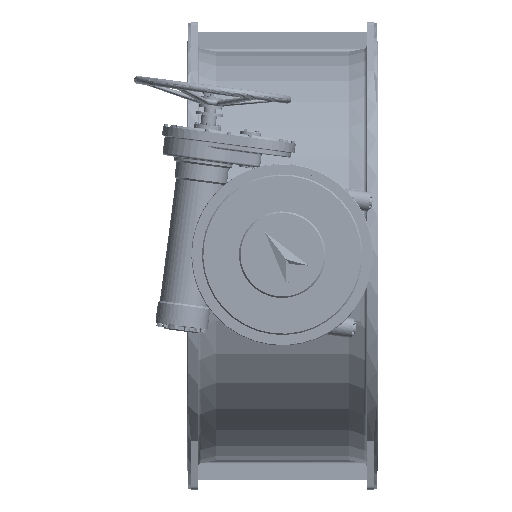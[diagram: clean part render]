
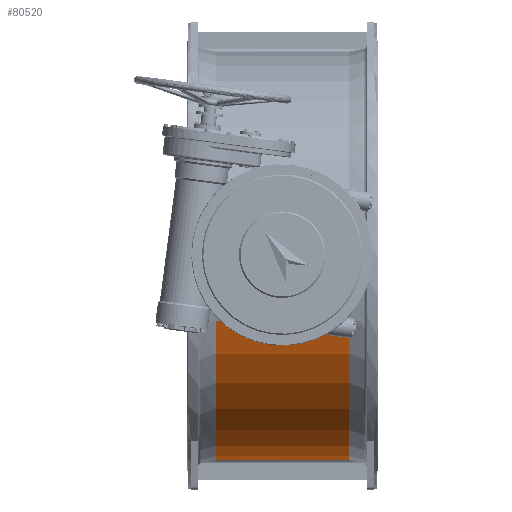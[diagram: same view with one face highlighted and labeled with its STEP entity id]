
A CAD part, top view. The second image highlights one B-rep face of the part: STEP entity #80520.
In plain terms, the highlighted cylindrical face has radius 929 mm (diameter 1858 mm), a partial arc.
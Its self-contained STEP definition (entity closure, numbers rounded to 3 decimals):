
#311 = VERTEX_POINT ( 'NONE', #8904 ) ;
#314 = VERTEX_POINT ( 'NONE', #8902 ) ;
#362 = VERTEX_POINT ( 'NONE', #8846 ) ;
#368 = VERTEX_POINT ( 'NONE', #8840 ) ;
#8840 = CARTESIAN_POINT ( 'NONE',  ( -303., 27.063, -928.606 ) ) ;
#8846 = CARTESIAN_POINT ( 'NONE',  ( -303., 880.245, -297. ) ) ;
#8902 = CARTESIAN_POINT ( 'NONE',  ( 303., 880.245, -297. ) ) ;
#8904 = CARTESIAN_POINT ( 'NONE',  ( 303., 27.063, -928.606 ) ) ;
#27659 = LINE ( 'NONE', #108118, #27667 ) ;
#27663 = LINE ( 'NONE', #108116, #27665 ) ;
#27665 = VECTOR ( 'NONE', #108111, 1000. ) ;
#27667 = VECTOR ( 'NONE', #108123, 1000. ) ;
#28082 = FACE_OUTER_BOUND ( 'NONE', #72470, .T. ) ;
#28091 = CYLINDRICAL_SURFACE ( 'NONE', #66469, 929. ) ;
#35241 = DIRECTION ( 'NONE',  ( 0., 0., 1. ) ) ;
#35244 = DIRECTION ( 'NONE',  ( -1., 0., 0. ) ) ;
#35247 = CARTESIAN_POINT ( 'NONE',  ( -183.869, 0., 0. ) ) ;
#62771 = EDGE_CURVE ( 'NONE', #314, #362, #27663, .T. ) ;
#62772 = EDGE_CURVE ( 'NONE', #311, #368, #27659, .T. ) ;
#66469 = AXIS2_PLACEMENT_3D ( 'NONE', #35247, #35244, #35241 ) ;
#72470 = EDGE_LOOP ( 'NONE', ( #104938, #104940, #104943, #104945 ) ) ;
#76087 = AXIS2_PLACEMENT_3D ( 'NONE', #97630, #97631, #97632 ) ;
#76100 = AXIS2_PLACEMENT_3D ( 'NONE', #98131, #98132, #98134 ) ;
#80520 = ADVANCED_FACE ( 'NONE', ( #28082 ), #28091, .T. ) ;
#84541 = EDGE_CURVE ( 'NONE', #314, #311, #86940, .T. ) ;
#84580 = EDGE_CURVE ( 'NONE', #362, #368, #86958, .T. ) ;
#86940 = CIRCLE ( 'NONE', #76087, 929. ) ;
#86958 = CIRCLE ( 'NONE', #76100, 929. ) ;
#97630 = CARTESIAN_POINT ( 'NONE',  ( 303., 0., 0. ) ) ;
#97631 = DIRECTION ( 'NONE',  ( -1., 0., 0. ) ) ;
#97632 = DIRECTION ( 'NONE',  ( 0., 0., 1. ) ) ;
#98131 = CARTESIAN_POINT ( 'NONE',  ( -303., 0., 0. ) ) ;
#98132 = DIRECTION ( 'NONE',  ( -1., 0., 0. ) ) ;
#98134 = DIRECTION ( 'NONE',  ( 0., 0., 1. ) ) ;
#104938 = ORIENTED_EDGE ( 'NONE', *, *, #84541, .T. ) ;
#104940 = ORIENTED_EDGE ( 'NONE', *, *, #62772, .T. ) ;
#104943 = ORIENTED_EDGE ( 'NONE', *, *, #84580, .F. ) ;
#104945 = ORIENTED_EDGE ( 'NONE', *, *, #62771, .F. ) ;
#108111 = DIRECTION ( 'NONE',  ( -1., 0., 0. ) ) ;
#108116 = CARTESIAN_POINT ( 'NONE',  ( 986.073, 880.245, -297. ) ) ;
#108118 = CARTESIAN_POINT ( 'NONE',  ( -183.869, 27.063, -928.606 ) ) ;
#108123 = DIRECTION ( 'NONE',  ( -1., 0., 0. ) ) ;
